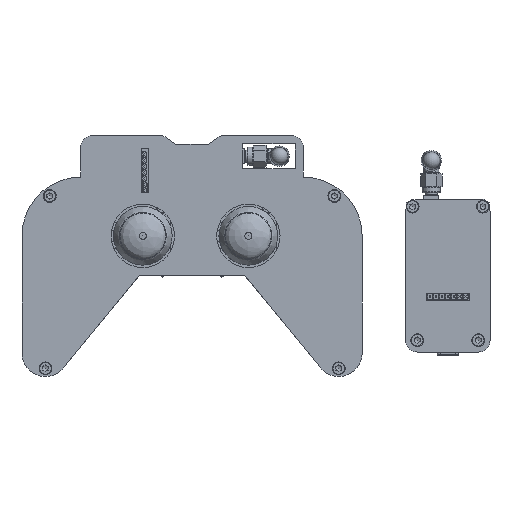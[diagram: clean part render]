
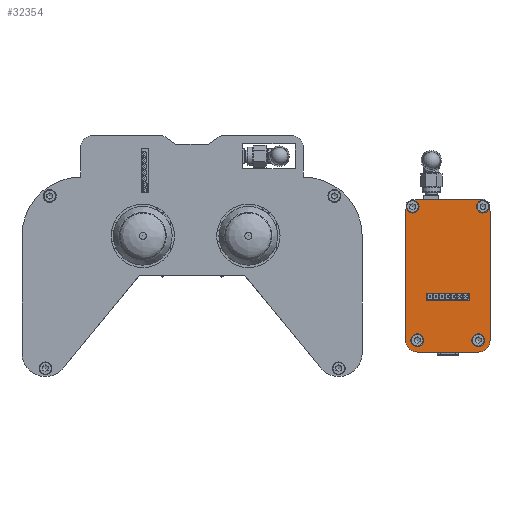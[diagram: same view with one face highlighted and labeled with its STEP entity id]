
A CAD part, left-side view. The second image highlights one B-rep face of the part: STEP entity #32354.
In plain terms, the highlighted planar face has unit normal (-1, 0, 0) as drawn and (0, 0, 1) by its records, which use the part's own axes.
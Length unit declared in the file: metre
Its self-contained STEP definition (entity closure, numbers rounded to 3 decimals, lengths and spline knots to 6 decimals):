
#2750=CIRCLE('',#39240,0.005);
#2751=CIRCLE('',#39243,0.005);
#2752=CIRCLE('',#39246,0.005);
#2753=CIRCLE('',#39252,0.0015);
#2754=CIRCLE('',#39254,0.0015);
#2755=CIRCLE('',#39256,0.0015);
#2756=CIRCLE('',#39258,0.0015);
#2757=CIRCLE('',#39260,0.005);
#11328=ORIENTED_EDGE('',*,*,#15666,.F.);
#11329=ORIENTED_EDGE('',*,*,#15665,.F.);
#11330=ORIENTED_EDGE('',*,*,#15664,.F.);
#11331=ORIENTED_EDGE('',*,*,#15663,.F.);
#11332=ORIENTED_EDGE('',*,*,#15653,.F.);
#11333=ORIENTED_EDGE('',*,*,#15657,.T.);
#11334=ORIENTED_EDGE('',*,*,#15660,.T.);
#11335=ORIENTED_EDGE('',*,*,#15662,.F.);
#11336=ORIENTED_EDGE('',*,*,#15640,.F.);
#11337=ORIENTED_EDGE('',*,*,#15643,.T.);
#11338=ORIENTED_EDGE('',*,*,#15645,.T.);
#11339=ORIENTED_EDGE('',*,*,#15647,.T.);
#11340=ORIENTED_EDGE('',*,*,#15649,.T.);
#11341=ORIENTED_EDGE('',*,*,#15650,.T.);
#11342=ORIENTED_EDGE('',*,*,#15626,.F.);
#11343=ORIENTED_EDGE('',*,*,#15667,.T.);
#15626=EDGE_CURVE('',#18513,#18514,#21729,.T.);
#15640=EDGE_CURVE('',#18522,#18523,#21741,.T.);
#15643=EDGE_CURVE('',#18522,#18524,#2750,.T.);
#15645=EDGE_CURVE('',#18524,#18525,#21745,.T.);
#15647=EDGE_CURVE('',#18525,#18526,#2751,.T.);
#15649=EDGE_CURVE('',#18526,#18527,#21748,.T.);
#15650=EDGE_CURVE('',#18527,#18514,#2752,.T.);
#15653=EDGE_CURVE('',#18530,#18531,#21751,.T.);
#15657=EDGE_CURVE('',#18530,#18533,#21755,.T.);
#15660=EDGE_CURVE('',#18533,#18535,#21758,.T.);
#15662=EDGE_CURVE('',#18531,#18535,#21760,.T.);
#15663=EDGE_CURVE('',#18536,#18536,#2753,.T.);
#15664=EDGE_CURVE('',#18537,#18537,#2754,.T.);
#15665=EDGE_CURVE('',#18538,#18538,#2755,.T.);
#15666=EDGE_CURVE('',#18539,#18539,#2756,.T.);
#15667=EDGE_CURVE('',#18513,#18523,#2757,.T.);
#18513=VERTEX_POINT('',#59361);
#18514=VERTEX_POINT('',#59363);
#18522=VERTEX_POINT('',#59387);
#18523=VERTEX_POINT('',#59389);
#18524=VERTEX_POINT('',#59393);
#18525=VERTEX_POINT('',#59397);
#18526=VERTEX_POINT('',#59401);
#18527=VERTEX_POINT('',#59405);
#18530=VERTEX_POINT('',#59414);
#18531=VERTEX_POINT('',#59416);
#18533=VERTEX_POINT('',#59422);
#18535=VERTEX_POINT('',#59428);
#18536=VERTEX_POINT('',#59435);
#18537=VERTEX_POINT('',#59438);
#18538=VERTEX_POINT('',#59441);
#18539=VERTEX_POINT('',#59444);
#21729=LINE('',#59362,#24957);
#21741=LINE('',#59388,#24969);
#21745=LINE('',#59398,#24973);
#21748=LINE('',#59406,#24976);
#21751=LINE('',#59415,#24979);
#21755=LINE('',#59423,#24983);
#21758=LINE('',#59429,#24986);
#21760=LINE('',#59432,#24988);
#24957=VECTOR('',#48088,1.);
#24969=VECTOR('',#48110,1.);
#24973=VECTOR('',#48120,1.);
#24976=VECTOR('',#48129,1.);
#24979=VECTOR('',#48138,1.);
#24983=VECTOR('',#48144,1.);
#24986=VECTOR('',#48149,1.);
#24988=VECTOR('',#48153,1.);
#27153=EDGE_LOOP('',(#11328));
#27154=EDGE_LOOP('',(#11329));
#27155=EDGE_LOOP('',(#11330));
#27156=EDGE_LOOP('',(#11331));
#27157=EDGE_LOOP('',(#11332,#11333,#11334,#11335));
#27158=EDGE_LOOP('',(#11336,#11337,#11338,#11339,#11340,#11341,#11342,#11343));
#29328=FACE_BOUND('',#27153,.T.);
#29329=FACE_BOUND('',#27154,.T.);
#29330=FACE_BOUND('',#27155,.T.);
#29331=FACE_BOUND('',#27156,.T.);
#29332=FACE_BOUND('',#27157,.T.);
#29333=FACE_BOUND('',#27158,.T.);
#30590=PLANE('',#39261);
#32354=ADVANCED_FACE('',(#29328,#29329,#29330,#29331,#29332,#29333),#30590,
 .T.);
#39240=AXIS2_PLACEMENT_3D('',#59394,#48115,#48116);
#39243=AXIS2_PLACEMENT_3D('',#59402,#48124,#48125);
#39246=AXIS2_PLACEMENT_3D('',#59408,#48132,#48133);
#39252=AXIS2_PLACEMENT_3D('',#59434,#48156,#48157);
#39254=AXIS2_PLACEMENT_3D('',#59437,#48160,#48161);
#39256=AXIS2_PLACEMENT_3D('',#59440,#48164,#48165);
#39258=AXIS2_PLACEMENT_3D('',#59443,#48168,#48169);
#39260=AXIS2_PLACEMENT_3D('',#59446,#48172,#48173);
#39261=AXIS2_PLACEMENT_3D('',#59447,#48174,#48175);
#48088=DIRECTION('',(0.,-1.,0.));
#48110=DIRECTION('',(1.,0.,0.));
#48115=DIRECTION('',(0.,0.,1.));
#48116=DIRECTION('',(1.,0.,0.));
#48120=DIRECTION('',(0.,-1.,0.));
#48124=DIRECTION('',(0.,0.,1.));
#48125=DIRECTION('',(1.,0.,0.));
#48129=DIRECTION('',(1.,0.,0.));
#48132=DIRECTION('',(0.,0.,1.));
#48133=DIRECTION('',(1.,0.,0.));
#48138=DIRECTION('',(0.,-1.,0.));
#48144=DIRECTION('',(1.,0.,0.));
#48149=DIRECTION('',(0.,-1.,0.));
#48153=DIRECTION('',(1.,0.,0.));
#48156=DIRECTION('',(0.,0.,1.));
#48157=DIRECTION('',(1.,0.,0.));
#48160=DIRECTION('',(0.,0.,1.));
#48161=DIRECTION('',(1.,0.,0.));
#48164=DIRECTION('',(0.,0.,1.));
#48165=DIRECTION('',(1.,0.,0.));
#48168=DIRECTION('',(0.,0.,1.));
#48169=DIRECTION('',(1.,0.,0.));
#48172=DIRECTION('',(0.,0.,1.));
#48173=DIRECTION('',(1.,0.,0.));
#48174=DIRECTION('',(0.,0.,1.));
#48175=DIRECTION('',(1.,0.,0.));
#59361=CARTESIAN_POINT('',(0.0325,0.013,0.015));
#59362=CARTESIAN_POINT('',(0.0325,0.,0.015));
#59363=CARTESIAN_POINT('',(0.0325,-0.013,0.015));
#59387=CARTESIAN_POINT('',(-0.0275,0.018,0.015));
#59388=CARTESIAN_POINT('',(0.,0.018,0.015));
#59389=CARTESIAN_POINT('',(0.0275,0.018,0.015));
#59393=CARTESIAN_POINT('',(-0.0325,0.013,0.015));
#59394=CARTESIAN_POINT('',(-0.0275,0.013,0.015));
#59397=CARTESIAN_POINT('',(-0.0325,-0.013,0.015));
#59398=CARTESIAN_POINT('',(-0.0325,0.,0.015));
#59401=CARTESIAN_POINT('',(-0.0275,-0.018,0.015));
#59402=CARTESIAN_POINT('',(-0.0275,-0.013,0.015));
#59405=CARTESIAN_POINT('',(0.0275,-0.018,0.015));
#59406=CARTESIAN_POINT('',(0.,-0.018,0.015));
#59408=CARTESIAN_POINT('',(0.0275,-0.013,0.015));
#59414=CARTESIAN_POINT('',(0.007482,0.00927,0.015));
#59415=CARTESIAN_POINT('',(0.007482,0.000025,0.015));
#59416=CARTESIAN_POINT('',(0.007482,-0.009221,0.015));
#59422=CARTESIAN_POINT('',(0.010582,0.00927,0.015));
#59423=CARTESIAN_POINT('',(0.009032,0.00927,0.015));
#59428=CARTESIAN_POINT('',(0.010582,-0.009221,0.015));
#59429=CARTESIAN_POINT('',(0.010582,0.000025,0.015));
#59432=CARTESIAN_POINT('',(0.009032,-0.009221,0.015));
#59434=CARTESIAN_POINT('',(0.0275,-0.013,0.015));
#59435=CARTESIAN_POINT('',(0.029,-0.013,0.015));
#59437=CARTESIAN_POINT('',(0.0275,0.013,0.015));
#59438=CARTESIAN_POINT('',(0.029,0.013,0.015));
#59440=CARTESIAN_POINT('',(-0.0295,0.015,0.015));
#59441=CARTESIAN_POINT('',(-0.028,0.015,0.015));
#59443=CARTESIAN_POINT('',(-0.0295,-0.015,0.015));
#59444=CARTESIAN_POINT('',(-0.028,-0.015,0.015));
#59446=CARTESIAN_POINT('',(0.0275,0.013,0.015));
#59447=CARTESIAN_POINT('',(0.,0.,0.015));
